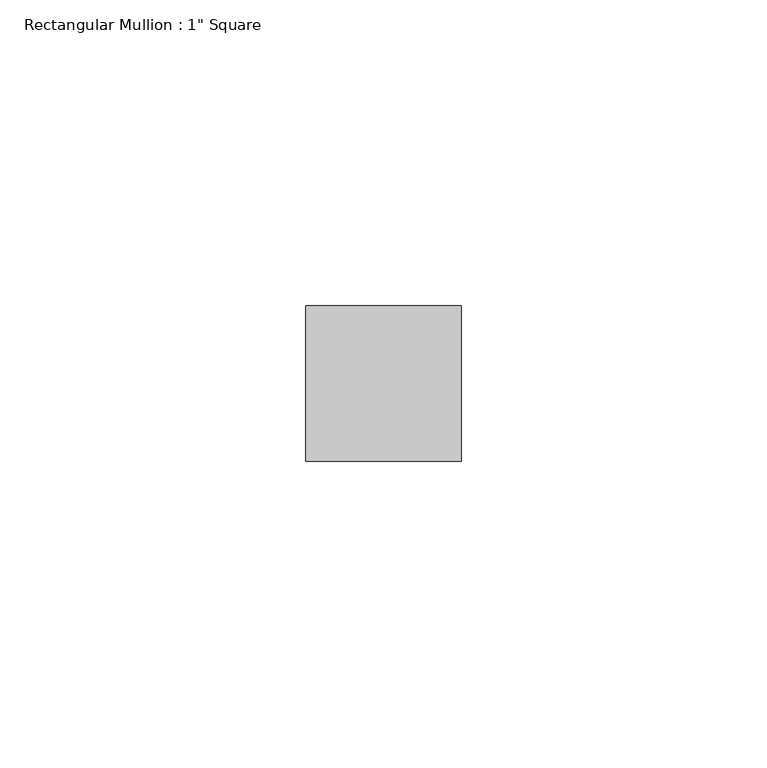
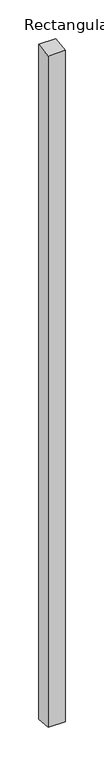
"""IFC4 building model written with IfcOpenShell, lengths in millimetres: member geometry."""

from ifc_helpers import new_model, si_unit, origin, place, context, project, spatial, faceted_brep, source, transform, mapped, element, save


def member_2fdd2993(model_context):
    return source(origin(), model_context, "Body", "Brep", [
        faceted_brep([(-25.4, 12.7, 0.9607551), (0.0, 12.7, 1.4699677), (0.0, 12.7, -1068.2699677), (-25.4, 12.7, -1067.7607551), (-25.4, -12.7, -1.9791803), (-25.4, -12.7, -1064.8208197), (0.0, -12.7, -1.4699677), (0.0, -12.7, -1065.3300323)], [[[0, 1, 2, 3]], [[4, 0, 3, 5]], [[6, 4, 5, 7]], [[1, 6, 7, 2]], [[1, 0, 4, 6]], [[2, 7, 5, 3]]]),
    ])


if __name__ == "__main__":
    model = new_model("IFC4")
    model_context = context("Model", 3, world=origin())
    ifc_project = project(units=[si_unit("LENGTHUNIT", "METRE", prefix="MILLI")], contexts=[model_context])
    site = spatial("IfcSite", under=ifc_project)
    building = spatial("IfcBuilding", under=site)
    placement = place(None, origin())
    member_shape = member_2fdd2993(model_context)
    element("IfcMember", 1, ObjectType="Rectangular Mullion : 1\" Square", at=placement, inside=building, context=model_context, shape_type="MappedRepresentation", body=[
        mapped(member_shape, transform((0.0, 0.0, 0.0), x_axis=(1.0, 0.0, 0.0), y_axis=(0.0, 1.0, 0.0), z_axis=(0.0, 0.0, 1.0))),
    ])
    save(model, "model.ifc")
